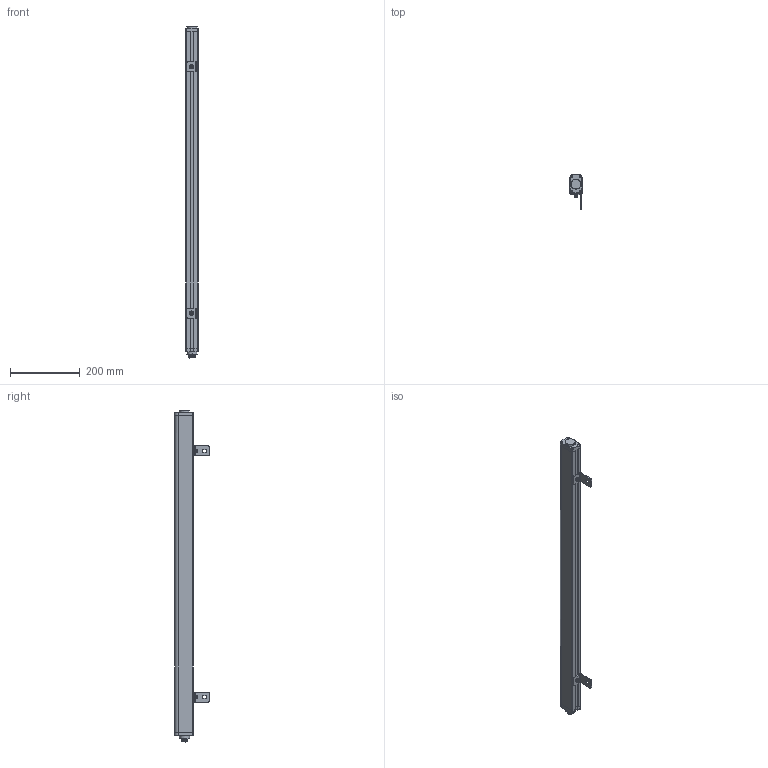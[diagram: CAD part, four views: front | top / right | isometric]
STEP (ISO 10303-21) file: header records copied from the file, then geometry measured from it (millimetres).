
FILE_DESCRIPTION((''),'2;1');
FILE_NAME('ESE8420_ASM','2021-07-12T15:12:26',('18720616900'),(''),'CREO PARAMETRIC BY PTC INC, 2019010','CREO PARAMETRIC BY PTC INC, 2019010','');
FILE_SCHEMA(('CONFIG_CONTROL_DESIGN'));
Length unit declared in the file: millimetre
Products named in the file (15): ESE--00; 000; ESE--000; HKCT2-1-SOLID1; HKCT11-1-SOLID1; 6_10001_ASM; ST-3-120001; L10001; M6-1-00; M6-1--00; M6-8--0001; 00; L1--0001_ASM; ESE8420_ASM
Assembly tree (22 placements, depth 3):
  ESE8420_ASM
    ESE--00
    000
    ESE--000
    ESE--000
    6_10001_ASM
      HKCT2-1-SOLID1
      HKCT11-1-SOLID1
    ST-3-120001  x8
    L1--0001_ASM  x2
      L10001
      M6-1-00
      M6-1--00
      M6-8--0001
      00
Bounding box: 35.3 x 99.3 x 950.59 mm (x, y, z)
Volume: 1602422 mm3; surface area: 254129.4 mm2
Topology: 24 solids, 24 shells, 1203 faces, 3161 edges, 2022 vertices
Faces by surface type: plane 340, cylinder 306, cone 246, bspline 233, torus 64, sphere 14
Entity records: 41666 total; most frequent: CARTESIAN_POINT 27268, ORIENTED_EDGE 3088, DIRECTION 2720, EDGE_CURVE 1544, AXIS2_PLACEMENT_3D 1052, VERTEX_POINT 1019, EDGE_LOOP 661, VECTOR 616
